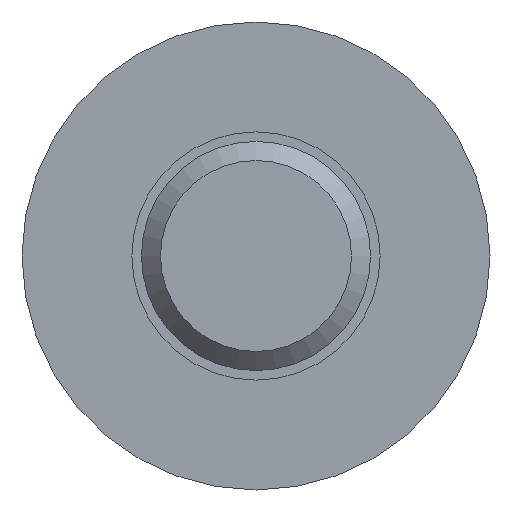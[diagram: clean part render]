
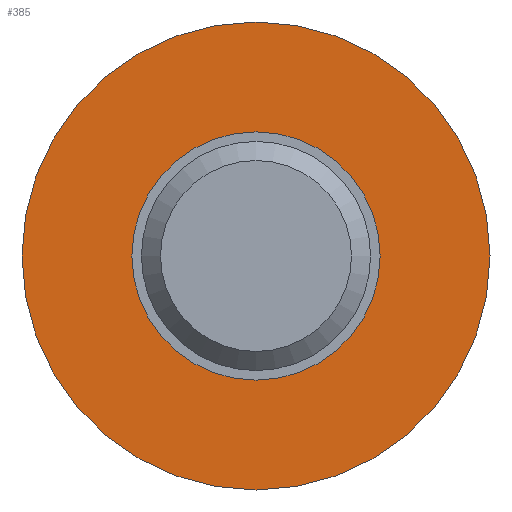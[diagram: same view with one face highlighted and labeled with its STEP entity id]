
A CAD part, front view. The second image highlights one B-rep face of the part: STEP entity #385.
In plain terms, the highlighted planar face has unit normal (0, -1, 0).
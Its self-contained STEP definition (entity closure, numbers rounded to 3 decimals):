
#42 = ORIENTED_EDGE ( 'NONE', *, *, #522, .F. ) ;
#45 = AXIS2_PLACEMENT_3D ( 'NONE', #183, #371, #441 ) ;
#47 = FACE_BOUND ( 'NONE', #482, .T. ) ;
#69 = CIRCLE ( 'NONE', #263, 12.25 ) ;
#183 = CARTESIAN_POINT ( 'NONE',  ( 0., 0., 0. ) ) ;
#188 = VERTEX_POINT ( 'NONE', #747 ) ;
#240 = DIRECTION ( 'NONE',  ( 0., 1., 0. ) ) ;
#241 = ORIENTED_EDGE ( 'NONE', *, *, #407, .T. ) ;
#251 = EDGE_LOOP ( 'NONE', ( #42 ) ) ;
#257 = DIRECTION ( 'NONE',  ( 0., 0., 1. ) ) ;
#263 = AXIS2_PLACEMENT_3D ( 'NONE', #267, #578, #257 ) ;
#267 = CARTESIAN_POINT ( 'NONE',  ( 0., 0., 0. ) ) ;
#298 = FACE_OUTER_BOUND ( 'NONE', #251, .T. ) ;
#358 = PLANE ( 'NONE',  #719 ) ;
#369 = CARTESIAN_POINT ( 'NONE',  ( 0., 0., 6.5 ) ) ;
#371 = DIRECTION ( 'NONE',  ( 0., 1., 0. ) ) ;
#385 = ADVANCED_FACE ( 'NONE', ( #298, #47 ), #358, .F. ) ;
#407 = EDGE_CURVE ( 'NONE', #555, #555, #630, .T. ) ;
#441 = DIRECTION ( 'NONE',  ( 0., 0., 1. ) ) ;
#482 = EDGE_LOOP ( 'NONE', ( #241 ) ) ;
#522 = EDGE_CURVE ( 'NONE', #188, #188, #69, .T. ) ;
#553 = DIRECTION ( 'NONE',  ( 0., 0., 1. ) ) ;
#555 = VERTEX_POINT ( 'NONE', #369 ) ;
#578 = DIRECTION ( 'NONE',  ( 0., 1., 0. ) ) ;
#630 = CIRCLE ( 'NONE', #45, 6.5 ) ;
#719 = AXIS2_PLACEMENT_3D ( 'NONE', #729, #240, #553 ) ;
#729 = CARTESIAN_POINT ( 'NONE',  ( 0., 0., 0. ) ) ;
#747 = CARTESIAN_POINT ( 'NONE',  ( 0., 0., 12.25 ) ) ;
